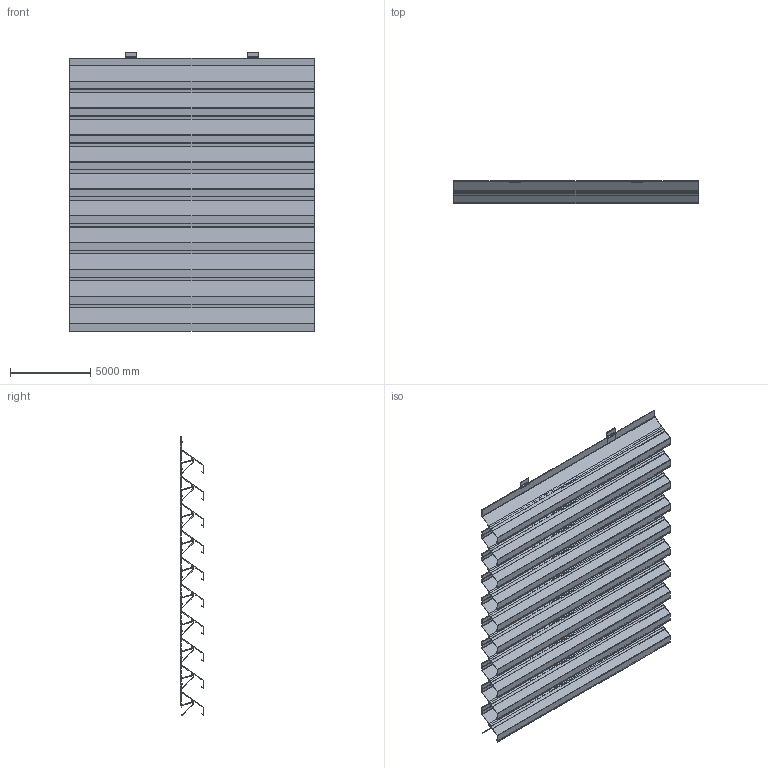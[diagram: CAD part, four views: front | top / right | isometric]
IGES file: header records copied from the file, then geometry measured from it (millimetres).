
Global section: file name: 3D_L_066CL; native system: AutoCAD 2023 - English; preprocessor: Autodesk Translation Framework DWG producer (atf_dwg_producer); organization: unknown; date: 20260202.112032; units: inch
Bounding box: 15240 x 1447.8 x 17365.98 mm (x, y, z)
Volume: 24897000502.9 mm3; surface area: 1297063596.8 mm2
Topology: 10 solids, 10 shells, 1290 faces, 3930 edges, 2580 vertices
Faces by surface type: bspline 1290
